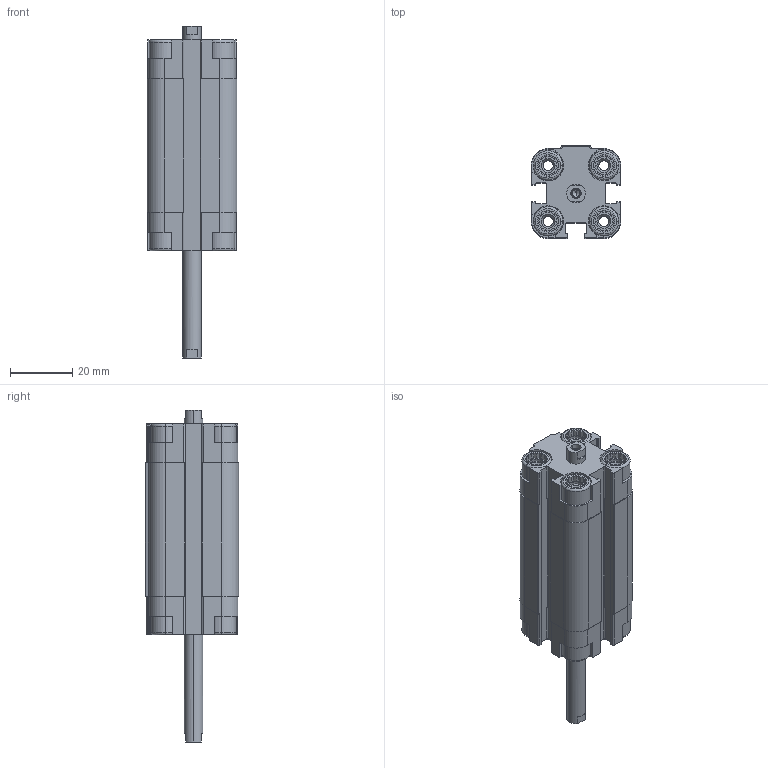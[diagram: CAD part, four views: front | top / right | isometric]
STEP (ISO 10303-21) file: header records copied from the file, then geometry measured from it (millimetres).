
FILE_DESCRIPTION (( 'STEP AP203' ), '1' );
FILE_NAME ('CDVU12-30F-P.STEP', '2020-07-24T18:01:49', ( '' ), ( '' ), 'SwSTEP 2.0', 'SolidWorks 2019', '' );
FILE_SCHEMA (( 'CONFIG_CONTROL_DESIGN' ));
Length unit declared in the file: millimetre
Products named in the file (1): CDVU12-30F-P
Bounding box: 29 x 30 x 107 mm (x, y, z)
Volume: 41287.5 mm3; surface area: 21814.7 mm2
Topology: 2 solids, 2 shells, 566 faces, 1508 edges, 980 vertices
Faces by surface type: plane 338, cylinder 164, cone 48, torus 16
Entity records: 17779 total; most frequent: CARTESIAN_POINT 3623, ORIENTED_EDGE 3000, DIRECTION 2850, EDGE_CURVE 1500, VERTEX_POINT 980, AXIS2_PLACEMENT_3D 975, LINE 900, VECTOR 900
